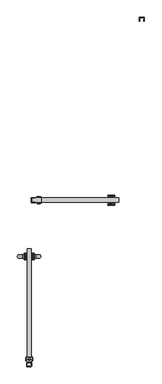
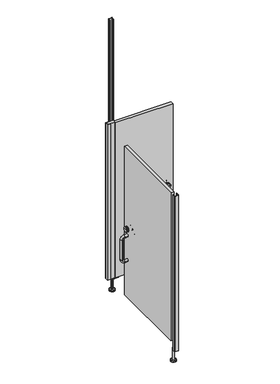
"""IFC4 building model written with IfcOpenShell, lengths in millimetres: proxy geometry, Partition_EuroStyle-Bradley_Corp-ADA_Alcove_1StandardStall-LOFT : Partition_EuroStyle-Bradley_Corp-ADA_Alcove_1StandardStall-LOFT."""

from ifc_helpers import new_model, si_unit, point, frame, frame_2d, origin, place, context, project, spatial, polyline, circle_curve, ellipse_curve, trimmed, segment, composite_curve, outline, extrude, source, transform, mapped, element, save
from ifc_brep_helpers import plane_surface, cylinder_surface, revolved_surface, advanced_brep


def specialty_equipment_3e80f648(model_context):
    return source(origin(), model_context, "Body", "SolidModel", [
        advanced_brep(
        [(1549.4, -2031.8, 975.0), (1549.4, -2001.8, 975.0), (1549.4, -2031.8, 679.0), (1549.4, -2001.8, 679.0), (1513.4, -2001.8, 975.0), (1513.4, -2031.8, 975.0), (1483.4, -2001.8, 945.0), (1483.4, -2001.8, 709.0), (1483.4, -2031.8, 709.0), (1483.4, -2031.8, 945.0), (1513.4, -2001.8, 679.0), (1513.4, -2031.8, 679.0)],
        [
            (0, 1, circle_curve(frame((1549.4, -2016.8, 975.0), z_axis=(1.0, 0.0, 0.0), x_axis=(0.0, 1.0, 0.0)), 15.0)),
            (1, 0, circle_curve(frame((1549.4, -2016.8, 975.0), z_axis=(1.0, 0.0, 0.0), x_axis=(0.0, 1.0, 0.0)), 15.0)),
            (2, 3, circle_curve(frame((1549.4, -2016.8, 679.0), z_axis=(1.0, 0.0, 0.0), x_axis=(0.0, 1.0, 0.0)), 15.0)),
            (3, 2, circle_curve(frame((1549.4, -2016.8, 679.0), z_axis=(1.0, 0.0, 0.0), x_axis=(0.0, 1.0, 0.0)), 15.0)),
            (1, 4),
            (4, 5, circle_curve(frame((1513.4, -2016.8, 975.0), z_axis=(1.0, 0.0, 0.0), x_axis=(0.0, 1.0, 0.0)), 15.0)),
            (5, 0),
            (5, 4, circle_curve(frame((1513.4, -2016.8, 975.0), z_axis=(1.0, 0.0, 0.0), x_axis=(0.0, 1.0, 0.0)), 15.0)),
            (6, 7),
            (7, 8, circle_curve(frame((1483.4, -2016.8, 709.0), z_axis=(0.0, 0.0, 1.0), x_axis=(0.0, 1.0, 0.0)), 15.0)),
            (8, 9),
            (9, 6, circle_curve(frame((1483.4, -2016.8, 945.0), z_axis=(0.0, 0.0, -1.0), x_axis=(0.0, 1.0, 0.0)), 15.0)),
            (8, 7, circle_curve(frame((1483.4, -2016.8, 709.0), z_axis=(0.0, 0.0, 1.0), x_axis=(0.0, 1.0, 0.0)), 15.0)),
            (6, 9, circle_curve(frame((1483.4, -2016.8, 945.0), z_axis=(0.0, 0.0, -1.0), x_axis=(0.0, 1.0, 0.0)), 15.0)),
            (10, 3),
            (2, 11),
            (11, 10, circle_curve(frame((1513.4, -2016.8, 679.0), z_axis=(1.0, 0.0, 0.0), x_axis=(0.0, 1.0, 0.0)), 15.0)),
            (10, 11, circle_curve(frame((1513.4, -2016.8, 679.0), z_axis=(1.0, 0.0, 0.0), x_axis=(0.0, 1.0, 0.0)), 15.0)),
            (9, 5, circle_curve(frame((1513.4, -2031.8, 945.0), z_axis=(0.0, 1.0, 0.0), x_axis=(0.0, 0.0, 1.0)), 30.0)),
            (4, 6, circle_curve(frame((1513.4, -2001.8, 945.0), z_axis=(0.0, -1.0, 0.0), x_axis=(0.0, 0.0, 1.0)), 30.0)),
            (11, 8, circle_curve(frame((1513.4, -2031.8, 709.0), z_axis=(0.0, 1.0, 0.0), x_axis=(-1.0, 0.0, 0.0)), 30.0)),
            (7, 10, circle_curve(frame((1513.4, -2001.8, 709.0), z_axis=(0.0, -1.0, 0.0), x_axis=(-1.0, 0.0, 0.0)), 30.0)),
        ],
        [
            plane_surface(frame((1549.4, -2016.8, 975.0), z_axis=(1.0, 0.0, 0.0), x_axis=(0.0, 1.0, 0.0))),
            plane_surface(frame((1549.4, -2016.8, 679.0), z_axis=(1.0, 0.0, 0.0), x_axis=(0.0, 1.0, 0.0))),
            cylinder_surface(frame((1549.4, -2016.8, 975.0), z_axis=(1.0, 0.0, 0.0), x_axis=(0.0, 1.0, 0.0)), 15.0),
            cylinder_surface(frame((1483.4, -2016.8, 945.0), z_axis=(0.0, 0.0, 1.0), x_axis=(0.0, 1.0, 0.0)), 15.0),
            cylinder_surface(frame((1513.4, -2016.8, 679.0), z_axis=(-1.0, 0.0, 0.0), x_axis=(0.0, 1.0, 0.0)), 15.0),
            revolved_surface(trimmed(ellipse_curve(frame((1513.4, -2016.8, 975.0), z_axis=(-1.0, 0.0, 0.0), x_axis=(0.0, 1.0, 0.0)), 15.0, 15.0), [point((1513.4, -2031.8, 975.0))], [point((1513.4, -2001.8, 975.0))], True, "CARTESIAN"), (1513.4, -2016.8, 945.0), (0.0, 1.0, 0.0)),
            revolved_surface(trimmed(ellipse_curve(frame((1513.4, -2016.8, 975.0), z_axis=(-1.0, 0.0, 0.0), x_axis=(0.0, 1.0, 0.0)), 15.0, 15.0), [point((1513.4, -2001.8, 975.0))], [point((1513.4, -2031.8, 975.0))], True, "CARTESIAN"), (1513.4, -2016.8, 945.0), (0.0, 1.0, 0.0)),
            revolved_surface(trimmed(ellipse_curve(frame((1483.4, -2016.8, 709.0), z_axis=(0.0, 0.0, -1.0), x_axis=(0.0, 1.0, 0.0)), 15.0, 15.0), [point((1483.4, -2031.8, 709.0))], [point((1483.4, -2001.8, 709.0))], True, "CARTESIAN"), (1513.4, -2016.8, 709.0), (0.0, 1.0, 0.0)),
            revolved_surface(trimmed(ellipse_curve(frame((1483.4, -2016.8, 709.0), z_axis=(0.0, 0.0, -1.0), x_axis=(0.0, 1.0, 0.0)), 15.0, 15.0), [point((1483.4, -2001.8, 709.0))], [point((1483.4, -2031.8, 709.0))], True, "CARTESIAN"), (1513.4, -2016.8, 709.0), (0.0, 1.0, 0.0)),
        ],
        [
            (0, [[1, 2]]),
            (1, [[3, 4]]),
            (2, [[5, 6, 7, -2]]),
            (2, [[-7, 8, -5, -1]]),
            (3, [[9, 10, 11, 12]]),
            (3, [[-11, 13, -9, 14]]),
            (4, [[15, -3, 16, 17]]),
            (4, [[-16, -4, -15, 18]]),
            (5, [[-12, 19, -6, 20]]),
            (6, [[-14, -20, -8, -19]]),
            (7, [[-17, 21, -10, 22]]),
            (8, [[-18, -22, -13, -21]]),
        ],
    ),
        advanced_brep(
        [(1585.4203251, -2031.8, 975.0), (1585.4203251, -2001.8, 975.0), (1585.4203251, -2031.8, 679.0), (1585.4203251, -2001.8, 679.0), (1621.4203251, -2031.8, 975.0), (1621.4203251, -2001.8, 975.0), (1651.4203251, -2001.8, 945.0), (1651.4203251, -2031.8, 945.0), (1651.4203251, -2031.8, 709.0), (1651.4203251, -2001.8, 709.0), (1621.4203251, -2001.8, 679.0), (1621.4203251, -2031.8, 679.0)],
        [
            (0, 1, circle_curve(frame((1585.4203251, -2016.8, 975.0), z_axis=(-1.0, 0.0, 0.0), x_axis=(0.0, 1.0, 0.0)), 15.0)),
            (1, 0, circle_curve(frame((1585.4203251, -2016.8, 975.0), z_axis=(-1.0, 0.0, 0.0), x_axis=(0.0, 1.0, 0.0)), 15.0)),
            (2, 3, circle_curve(frame((1585.4203251, -2016.8, 679.0), z_axis=(-1.0, 0.0, 0.0), x_axis=(0.0, 1.0, 0.0)), 15.0)),
            (3, 2, circle_curve(frame((1585.4203251, -2016.8, 679.0), z_axis=(-1.0, 0.0, 0.0), x_axis=(0.0, 1.0, 0.0)), 15.0)),
            (0, 4),
            (4, 5, circle_curve(frame((1621.4203251, -2016.8, 975.0), z_axis=(-1.0, 0.0, 0.0), x_axis=(0.0, 1.0, 0.0)), 15.0)),
            (5, 1),
            (5, 4, circle_curve(frame((1621.4203251, -2016.8, 975.0), z_axis=(-1.0, 0.0, 0.0), x_axis=(0.0, 1.0, 0.0)), 15.0)),
            (6, 7, circle_curve(frame((1651.4203251, -2016.8, 945.0), z_axis=(0.0, 0.0, -1.0), x_axis=(0.0, 1.0, 0.0)), 15.0)),
            (7, 8),
            (8, 9, circle_curve(frame((1651.4203251, -2016.8, 709.0), z_axis=(0.0, 0.0, 1.0), x_axis=(0.0, 1.0, 0.0)), 15.0)),
            (9, 6),
            (7, 6, circle_curve(frame((1651.4203251, -2016.8, 945.0), z_axis=(0.0, 0.0, -1.0), x_axis=(0.0, 1.0, 0.0)), 15.0)),
            (9, 8, circle_curve(frame((1651.4203251, -2016.8, 709.0), z_axis=(0.0, 0.0, 1.0), x_axis=(0.0, 1.0, 0.0)), 15.0)),
            (10, 11, circle_curve(frame((1621.4203251, -2016.8, 679.0), z_axis=(-1.0, 0.0, 0.0), x_axis=(0.0, 1.0, 0.0)), 15.0)),
            (11, 2),
            (3, 10),
            (11, 10, circle_curve(frame((1621.4203251, -2016.8, 679.0), z_axis=(-1.0, 0.0, 0.0), x_axis=(0.0, 1.0, 0.0)), 15.0)),
            (6, 5, circle_curve(frame((1621.4203251, -2001.8, 945.0), z_axis=(0.0, -1.0, 0.0), x_axis=(0.0, 0.0, 1.0)), 30.0)),
            (4, 7, circle_curve(frame((1621.4203251, -2031.8, 945.0), z_axis=(0.0, 1.0, 0.0), x_axis=(0.0, 0.0, 1.0)), 30.0)),
            (10, 9, circle_curve(frame((1621.4203251, -2001.8, 709.0), z_axis=(0.0, -1.0, 0.0), x_axis=(1.0, 0.0, 0.0)), 30.0)),
            (8, 11, circle_curve(frame((1621.4203251, -2031.8, 709.0), z_axis=(0.0, 1.0, 0.0), x_axis=(1.0, 0.0, 0.0)), 30.0)),
        ],
        [
            plane_surface(frame((1585.4203251, -2016.8, 975.0), z_axis=(-1.0, 0.0, 0.0), x_axis=(0.0, 1.0, 0.0))),
            plane_surface(frame((1585.4203251, -2016.8, 679.0), z_axis=(-1.0, 0.0, 0.0), x_axis=(0.0, 1.0, 0.0))),
            cylinder_surface(frame((1585.4203251, -2016.8, 975.0), z_axis=(-1.0, 0.0, 0.0), x_axis=(0.0, 1.0, 0.0)), 15.0),
            cylinder_surface(frame((1651.4203251, -2016.8, 945.0), z_axis=(0.0, 0.0, 1.0), x_axis=(0.0, 1.0, 0.0)), 15.0),
            cylinder_surface(frame((1621.4203251, -2016.8, 679.0), z_axis=(1.0, 0.0, 0.0), x_axis=(0.0, 1.0, 0.0)), 15.0),
            revolved_surface(trimmed(ellipse_curve(frame((1621.4203251, -2016.8, 975.0), z_axis=(-1.0, 0.0, 0.0), x_axis=(0.0, 1.0, 0.0)), 15.0, 15.0), [point((1621.4203251, -2031.8, 975.0))], [point((1621.4203251, -2001.8, 975.0))], True, "CARTESIAN"), (1621.4203251, -2016.8, 945.0), (0.0, 1.0, 0.0)),
            revolved_surface(trimmed(ellipse_curve(frame((1621.4203251, -2016.8, 975.0), z_axis=(-1.0, 0.0, 0.0), x_axis=(0.0, 1.0, 0.0)), 15.0, 15.0), [point((1621.4203251, -2001.8, 975.0))], [point((1621.4203251, -2031.8, 975.0))], True, "CARTESIAN"), (1621.4203251, -2016.8, 945.0), (0.0, 1.0, 0.0)),
            revolved_surface(trimmed(ellipse_curve(frame((1651.4203251, -2016.8, 709.0), z_axis=(0.0, 0.0, 1.0), x_axis=(0.0, 1.0, 0.0)), 15.0, 15.0), [point((1651.4203251, -2031.8, 709.0))], [point((1651.4203251, -2001.8, 709.0))], True, "CARTESIAN"), (1621.4203251, -2016.8, 709.0), (0.0, 1.0, 0.0)),
            revolved_surface(trimmed(ellipse_curve(frame((1651.4203251, -2016.8, 709.0), z_axis=(0.0, 0.0, 1.0), x_axis=(0.0, 1.0, 0.0)), 15.0, 15.0), [point((1651.4203251, -2001.8, 709.0))], [point((1651.4203251, -2031.8, 709.0))], True, "CARTESIAN"), (1621.4203251, -2016.8, 709.0), (0.0, 1.0, 0.0)),
        ],
        [
            (0, [[1, 2]]),
            (1, [[3, 4]]),
            (2, [[-1, 5, 6, 7]]),
            (2, [[-2, -7, 8, -5]]),
            (3, [[9, 10, 11, 12]]),
            (3, [[13, -12, 14, -10]]),
            (4, [[15, 16, -4, 17]]),
            (4, [[18, -17, -3, -16]]),
            (5, [[19, -6, 20, -9]]),
            (6, [[-20, -8, -19, -13]]),
            (7, [[21, -11, 22, -15]]),
            (8, [[-22, -14, -21, -18]]),
        ],
    ),
        advanced_brep(
        [(1549.4203251, -2045.375, 1050.0), (1549.4203251, -1988.225, 1050.0), (1549.4203251, -2016.8, 1050.0), (1544.6578251, -2045.375, 1050.0), (1544.6578251, -1988.225, 1050.0), (1525.6078251, -2045.375, 1050.0), (1525.6078251, -1988.225, 1050.0), (1530.3703251, -1988.225, 1050.0), (1530.3703251, -2045.375, 1050.0), (1531.9578251, -1989.8125, 1050.0), (1531.9578251, -2043.7875, 1050.0), (1543.0703251, -1989.8125, 1050.0), (1543.0703251, -2043.7875, 1050.0), (1524.0203251, -2016.8, 1050.0)],
        [
            (0, 1, circle_curve(frame((1549.4203251, -2016.8, 1050.0), z_axis=(1.0, 0.0, 0.0), x_axis=(0.0, 1.0, 0.0)), 28.575)),
            (1, 2),
            (2, 0),
            (1, 0, circle_curve(frame((1549.4203251, -2016.8, 1050.0), z_axis=(1.0, 0.0, 0.0), x_axis=(0.0, 1.0, 0.0)), 28.575)),
            (3, 4, circle_curve(frame((1544.6578251, -2016.8, 1050.0), z_axis=(1.0, 0.0, 0.0), x_axis=(0.0, 1.0, 0.0)), 28.575)),
            (4, 1),
            (0, 3),
            (4, 3, circle_curve(frame((1544.6578251, -2016.8, 1050.0), z_axis=(1.0, 0.0, 0.0), x_axis=(0.0, 1.0, 0.0)), 28.575)),
            (5, 6, circle_curve(frame((1525.6078251, -2016.8, 1050.0), z_axis=(1.0, 0.0, 0.0), x_axis=(0.0, 1.0, 0.0)), 28.575)),
            (6, 7),
            (7, 8, circle_curve(frame((1530.3703251, -2016.8, 1050.0), z_axis=(-1.0, 0.0, 0.0), x_axis=(0.0, 1.0, 0.0)), 28.575)),
            (8, 5),
            (6, 5, circle_curve(frame((1525.6078251, -2016.8, 1050.0), z_axis=(1.0, 0.0, 0.0), x_axis=(0.0, 1.0, 0.0)), 28.575)),
            (8, 7, circle_curve(frame((1530.3703251, -2016.8, 1050.0), z_axis=(-1.0, 0.0, 0.0), x_axis=(0.0, 1.0, 0.0)), 28.575)),
            (7, 9, circle_curve(frame((1531.9578251, -1988.225, 1050.0), z_axis=(0.0, 0.0, 1.0), x_axis=(0.0, 1.0, 0.0)), 1.5875)),
            (9, 10, circle_curve(frame((1531.9578251, -2016.8, 1050.0), z_axis=(-1.0, 0.0, 0.0), x_axis=(0.0, 1.0, 0.0)), 26.9875)),
            (10, 8, circle_curve(frame((1531.9578251, -2045.375, 1050.0), z_axis=(0.0, 0.0, 1.0), x_axis=(0.0, -1.0, 0.0)), 1.5875)),
            (10, 9, circle_curve(frame((1531.9578251, -2016.8, 1050.0), z_axis=(-1.0, 0.0, 0.0), x_axis=(0.0, 1.0, 0.0)), 26.9875)),
            (9, 11),
            (11, 12, circle_curve(frame((1543.0703251, -2016.8, 1050.0), z_axis=(-1.0, 0.0, 0.0), x_axis=(0.0, 1.0, 0.0)), 26.9875)),
            (12, 10),
            (12, 11, circle_curve(frame((1543.0703251, -2016.8, 1050.0), z_axis=(-1.0, 0.0, 0.0), x_axis=(0.0, 1.0, 0.0)), 26.9875)),
            (11, 4, circle_curve(frame((1543.0703251, -1988.225, 1050.0), z_axis=(0.0, 0.0, 1.0), x_axis=(0.0, 1.0, 0.0)), 1.5875)),
            (3, 12, circle_curve(frame((1543.0703251, -2045.375, 1050.0), z_axis=(0.0, 0.0, 1.0), x_axis=(0.0, -1.0, 0.0)), 1.5875)),
            (13, 6, circle_curve(frame((1715.4948544, -2013.1058766, 1050.0), z_axis=(0.0, 0.0, -1.0), x_axis=(0.0, 1.0, 0.0)), 191.5101613)),
            (5, 13, circle_curve(frame((1715.4948544, -2020.4941234, 1050.0), z_axis=(0.0, 0.0, -1.0), x_axis=(0.0, -1.0, 0.0)), 191.5101613)),
        ],
        [
            plane_surface(frame((1549.4203251, -2016.8, 1050.0), z_axis=(1.0, 0.0, 0.0), x_axis=(0.0, 1.0, 0.0))),
            cylinder_surface(frame((1549.4203251, -2016.8, 1050.0), z_axis=(-1.0, 0.0, 0.0), x_axis=(0.0, 1.0, 0.0)), 28.575),
            revolved_surface(trimmed(ellipse_curve(frame((1531.9578251, -1988.225, 1050.0), z_axis=(0.0, 0.0, -1.0), x_axis=(0.0, 1.0, 0.0)), 1.5875, 1.5875), [point((1531.9578251, -1989.8125, 1050.0))], [point((1530.3703251, -1988.225, 1050.0))], True, "CARTESIAN"), (1549.4203251, -2016.8, 1050.0), (-1.0, 0.0, 0.0)),
            cylinder_surface(frame((1549.4203251, -2016.8, 1050.0), z_axis=(-1.0, 0.0, 0.0), x_axis=(0.0, 1.0, 0.0)), 26.9875),
            revolved_surface(trimmed(ellipse_curve(frame((1543.0703251, -1988.225, 1050.0), z_axis=(0.0, 0.0, -1.0), x_axis=(0.0, 1.0, 0.0)), 1.5875, 1.5875), [point((1544.6578251, -1988.225, 1050.0))], [point((1543.0703251, -1989.8125, 1050.0))], True, "CARTESIAN"), (1549.4203251, -2016.8, 1050.0), (-1.0, 0.0, 0.0)),
            revolved_surface(trimmed(ellipse_curve(frame((1715.4948544, -2013.1058766, 1050.0), z_axis=(0.0, 0.0, 1.0), x_axis=(0.0, 1.0, 0.0)), 191.5101613, 191.5101613), [point((1525.6078251, -1988.225, 1050.0))], [point((1524.0203251, -2016.8, 1050.0))], True, "CARTESIAN"), (1549.4203251, -2016.8, 1050.0), (-1.0, 0.0, 0.0)),
        ],
        [
            (0, [[1, 2, 3]]),
            (0, [[4, -3, -2]]),
            (1, [[5, 6, -1, 7]]),
            (1, [[8, -7, -4, -6]]),
            (1, [[9, 10, 11, 12]]),
            (1, [[13, -12, 14, -10]]),
            (2, [[-11, 15, 16, 17]]),
            (2, [[-14, -17, 18, -15]]),
            (3, [[-16, 19, 20, 21]]),
            (3, [[-18, -21, 22, -19]]),
            (4, [[-20, 23, -5, 24]]),
            (4, [[-22, -24, -8, -23]]),
            (5, [[25, -9, 26]]),
            (5, [[-26, -13, -25]]),
        ],
    ),
        advanced_brep(
        [(1585.4203251, -2016.8, 1050.0), (1585.4203251, -1988.225, 1050.0), (1585.4203251, -2045.375, 1050.0), (1590.1828251, -1988.225, 1050.0), (1590.1828251, -2045.375, 1050.0), (1604.4703251, -2045.375, 1050.0), (1604.4703251, -1988.225, 1050.0), (1609.2328251, -1988.225, 1050.0), (1609.2328251, -2045.375, 1050.0), (1602.8828251, -2043.7875, 1050.0), (1602.8828251, -1989.8125, 1050.0), (1591.7703251, -2043.7875, 1050.0), (1591.7703251, -1989.8125, 1050.0), (1610.8203251, -2016.8, 1050.0)],
        [
            (0, 1),
            (1, 2, circle_curve(frame((1585.4203251, -2016.8, 1050.0), z_axis=(-1.0, 0.0, 0.0), x_axis=(0.0, 1.0, 0.0)), 28.575)),
            (2, 0),
            (2, 1, circle_curve(frame((1585.4203251, -2016.8, 1050.0), z_axis=(-1.0, 0.0, 0.0), x_axis=(0.0, 1.0, 0.0)), 28.575)),
            (1, 3),
            (3, 4, circle_curve(frame((1590.1828251, -2016.8, 1050.0), z_axis=(-1.0, 0.0, 0.0), x_axis=(0.0, 1.0, 0.0)), 28.575)),
            (4, 2),
            (4, 3, circle_curve(frame((1590.1828251, -2016.8, 1050.0), z_axis=(-1.0, 0.0, 0.0), x_axis=(0.0, 1.0, 0.0)), 28.575)),
            (5, 6, circle_curve(frame((1604.4703251, -2016.8, 1050.0), z_axis=(1.0, 0.0, 0.0), x_axis=(0.0, 1.0, 0.0)), 28.575)),
            (6, 7),
            (7, 8, circle_curve(frame((1609.2328251, -2016.8, 1050.0), z_axis=(-1.0, 0.0, 0.0), x_axis=(0.0, 1.0, 0.0)), 28.575)),
            (8, 5),
            (6, 5, circle_curve(frame((1604.4703251, -2016.8, 1050.0), z_axis=(1.0, 0.0, 0.0), x_axis=(0.0, 1.0, 0.0)), 28.575)),
            (8, 7, circle_curve(frame((1609.2328251, -2016.8, 1050.0), z_axis=(-1.0, 0.0, 0.0), x_axis=(0.0, 1.0, 0.0)), 28.575)),
            (9, 10, circle_curve(frame((1602.8828251, -2016.8, 1050.0), z_axis=(1.0, 0.0, 0.0), x_axis=(0.0, 1.0, 0.0)), 26.9875)),
            (10, 6, circle_curve(frame((1602.8828251, -1988.225, 1050.0), z_axis=(0.0, 0.0, 1.0), x_axis=(0.0, 1.0, 0.0)), 1.5875)),
            (5, 9, circle_curve(frame((1602.8828251, -2045.375, 1050.0), z_axis=(0.0, 0.0, 1.0), x_axis=(0.0, -1.0, 0.0)), 1.5875)),
            (10, 9, circle_curve(frame((1602.8828251, -2016.8, 1050.0), z_axis=(1.0, 0.0, 0.0), x_axis=(0.0, 1.0, 0.0)), 26.9875)),
            (11, 12, circle_curve(frame((1591.7703251, -2016.8, 1050.0), z_axis=(1.0, 0.0, 0.0), x_axis=(0.0, 1.0, 0.0)), 26.9875)),
            (12, 10),
            (9, 11),
            (12, 11, circle_curve(frame((1591.7703251, -2016.8, 1050.0), z_axis=(1.0, 0.0, 0.0), x_axis=(0.0, 1.0, 0.0)), 26.9875)),
            (3, 12, circle_curve(frame((1591.7703251, -1988.225, 1050.0), z_axis=(0.0, 0.0, 1.0), x_axis=(0.0, 1.0, 0.0)), 1.5875)),
            (11, 4, circle_curve(frame((1591.7703251, -2045.375, 1050.0), z_axis=(0.0, 0.0, 1.0), x_axis=(0.0, -1.0, 0.0)), 1.5875)),
            (7, 13, circle_curve(frame((1419.3457959, -2013.1058766, 1050.0), z_axis=(0.0, 0.0, -1.0), x_axis=(0.0, 1.0, 0.0)), 191.5101613)),
            (13, 8, circle_curve(frame((1419.3457959, -2020.4941234, 1050.0), z_axis=(0.0, 0.0, -1.0), x_axis=(0.0, -1.0, 0.0)), 191.5101613)),
        ],
        [
            plane_surface(frame((1585.4203251, -2016.8, 1050.0), z_axis=(-1.0, 0.0, 0.0), x_axis=(0.0, 1.0, 0.0))),
            cylinder_surface(frame((1585.4203251, -2016.8, 1050.0), z_axis=(-1.0, 0.0, 0.0), x_axis=(0.0, 1.0, 0.0)), 28.575),
            revolved_surface(trimmed(ellipse_curve(frame((1602.8828251, -1988.225, 1050.0), z_axis=(0.0, 0.0, -1.0), x_axis=(0.0, 1.0, 0.0)), 1.5875, 1.5875), [point((1604.4703251, -1988.225, 1050.0))], [point((1602.8828251, -1989.8125, 1050.0))], True, "CARTESIAN"), (1585.4203251, -2016.8, 1050.0), (-1.0, 0.0, 0.0)),
            cylinder_surface(frame((1585.4203251, -2016.8, 1050.0), z_axis=(-1.0, 0.0, 0.0), x_axis=(0.0, 1.0, 0.0)), 26.9875),
            revolved_surface(trimmed(ellipse_curve(frame((1591.7703251, -1988.225, 1050.0), z_axis=(0.0, 0.0, -1.0), x_axis=(0.0, 1.0, 0.0)), 1.5875, 1.5875), [point((1591.7703251, -1989.8125, 1050.0))], [point((1590.1828251, -1988.225, 1050.0))], True, "CARTESIAN"), (1585.4203251, -2016.8, 1050.0), (-1.0, 0.0, 0.0)),
            revolved_surface(trimmed(ellipse_curve(frame((1419.3457959, -2013.1058766, 1050.0), z_axis=(0.0, 0.0, 1.0), x_axis=(0.0, 1.0, 0.0)), 191.5101613, 191.5101613), [point((1610.8203251, -2016.8, 1050.0))], [point((1609.2328251, -1988.225, 1050.0))], True, "CARTESIAN"), (1585.4203251, -2016.8, 1050.0), (-1.0, 0.0, 0.0)),
        ],
        [
            (0, [[1, 2, 3]]),
            (0, [[-3, 4, -1]]),
            (1, [[-2, 5, 6, 7]]),
            (1, [[-4, -7, 8, -5]]),
            (1, [[9, 10, 11, 12]]),
            (1, [[13, -12, 14, -10]]),
            (2, [[15, 16, -9, 17]]),
            (2, [[18, -17, -13, -16]]),
            (3, [[19, 20, -15, 21]]),
            (3, [[22, -21, -18, -20]]),
            (4, [[-6, 23, -19, 24]]),
            (4, [[-8, -24, -22, -23]]),
            (5, [[-11, 25, 26]]),
            (5, [[-14, -26, -25]]),
        ],
    ),
        extrude(outline(polyline([(1549.4, -2862.4032348), (1549.4, -1953.3), (1585.4203251, -1953.3), (1585.4203251, -2862.4032348), (1549.4, -2862.4032348)])), frame((0.0, 0.0, 228.6), z_axis=(0.0, 0.0, 1.0), x_axis=(1.0, 0.0, 0.0)), (0.0, 0.0, 1.0), 1767.4),
        advanced_brep(
        [(2232.4451766, -1524.0098174, 1050.0), (2289.5951766, -1524.0098174, 1050.0), (2261.0201766, -1524.0098174, 1050.0), (2232.4451766, -1519.2473174, 1050.0), (2289.5951766, -1519.2473174, 1050.0), (2232.4451766, -1500.1973174, 1050.0), (2289.5951766, -1500.1973174, 1050.0), (2289.5951766, -1504.9598174, 1050.0), (2232.4451766, -1504.9598174, 1050.0), (2288.0076766, -1506.5473174, 1050.0), (2234.0326766, -1506.5473174, 1050.0), (2288.0076766, -1517.6598174, 1050.0), (2234.0326766, -1517.6598174, 1050.0), (2261.0201766, -1498.6098174, 1050.0)],
        [
            (0, 1, circle_curve(frame((2261.0201766, -1524.0098174, 1050.0), z_axis=(0.0, -1.0, 0.0), x_axis=(1.0, 0.0, 0.0)), 28.575)),
            (1, 2),
            (2, 0),
            (1, 0, circle_curve(frame((2261.0201766, -1524.0098174, 1050.0), z_axis=(0.0, -1.0, 0.0), x_axis=(1.0, 0.0, 0.0)), 28.575)),
            (3, 4, circle_curve(frame((2261.0201766, -1519.2473174, 1050.0), z_axis=(0.0, -1.0, 0.0), x_axis=(1.0, 0.0, 0.0)), 28.575)),
            (4, 1),
            (0, 3),
            (4, 3, circle_curve(frame((2261.0201766, -1519.2473174, 1050.0), z_axis=(0.0, -1.0, 0.0), x_axis=(1.0, 0.0, 0.0)), 28.575)),
            (5, 6, circle_curve(frame((2261.0201766, -1500.1973174, 1050.0), z_axis=(0.0, -1.0, 0.0), x_axis=(1.0, 0.0, 0.0)), 28.575)),
            (6, 7),
            (7, 8, circle_curve(frame((2261.0201766, -1504.9598174, 1050.0), z_axis=(0.0, 1.0, 0.0), x_axis=(1.0, 0.0, 0.0)), 28.575)),
            (8, 5),
            (6, 5, circle_curve(frame((2261.0201766, -1500.1973174, 1050.0), z_axis=(0.0, -1.0, 0.0), x_axis=(1.0, 0.0, 0.0)), 28.575)),
            (8, 7, circle_curve(frame((2261.0201766, -1504.9598174, 1050.0), z_axis=(0.0, 1.0, 0.0), x_axis=(1.0, 0.0, 0.0)), 28.575)),
            (7, 9, circle_curve(frame((2289.5951766, -1506.5473174, 1050.0), z_axis=(0.0, 0.0, 1.0), x_axis=(1.0, 0.0, 0.0)), 1.5875)),
            (9, 10, circle_curve(frame((2261.0201766, -1506.5473174, 1050.0), z_axis=(0.0, 1.0, 0.0), x_axis=(1.0, 0.0, 0.0)), 26.9875)),
            (10, 8, circle_curve(frame((2232.4451766, -1506.5473174, 1050.0), z_axis=(0.0, 0.0, 1.0), x_axis=(-1.0, 0.0, 0.0)), 1.5875)),
            (10, 9, circle_curve(frame((2261.0201766, -1506.5473174, 1050.0), z_axis=(0.0, 1.0, 0.0), x_axis=(1.0, 0.0, 0.0)), 26.9875)),
            (9, 11),
            (11, 12, circle_curve(frame((2261.0201766, -1517.6598174, 1050.0), z_axis=(0.0, 1.0, 0.0), x_axis=(1.0, 0.0, 0.0)), 26.9875)),
            (12, 10),
            (12, 11, circle_curve(frame((2261.0201766, -1517.6598174, 1050.0), z_axis=(0.0, 1.0, 0.0), x_axis=(1.0, 0.0, 0.0)), 26.9875)),
            (11, 4, circle_curve(frame((2289.5951766, -1517.6598174, 1050.0), z_axis=(0.0, 0.0, 1.0), x_axis=(1.0, 0.0, 0.0)), 1.5875)),
            (3, 12, circle_curve(frame((2232.4451766, -1517.6598174, 1050.0), z_axis=(0.0, 0.0, 1.0), x_axis=(-1.0, 0.0, 0.0)), 1.5875)),
            (13, 6, circle_curve(frame((2264.7143, -1690.0843466, 1050.0), z_axis=(0.0, 0.0, -1.0), x_axis=(1.0, 0.0, 0.0)), 191.5101613)),
            (5, 13, circle_curve(frame((2257.3260533, -1690.0843466, 1050.0), z_axis=(0.0, 0.0, -1.0), x_axis=(-1.0, 0.0, 0.0)), 191.5101613)),
        ],
        [
            plane_surface(frame((2261.0201766, -1524.0098174, 1050.0), z_axis=(0.0, -1.0, 0.0), x_axis=(1.0, 0.0, 0.0))),
            cylinder_surface(frame((2261.0201766, -1524.0098174, 1050.0), z_axis=(0.0, 1.0, 0.0), x_axis=(1.0, 0.0, 0.0)), 28.575),
            revolved_surface(trimmed(ellipse_curve(frame((2289.5951766, -1506.5473174, 1050.0), z_axis=(0.0, 0.0, -1.0), x_axis=(1.0, 0.0, 0.0)), 1.5875, 1.5875), [point((2288.0076766, -1506.5473174, 1050.0))], [point((2289.5951766, -1504.9598174, 1050.0))], True, "CARTESIAN"), (2261.0201766, -1524.0098174, 1050.0), (0.0, 1.0, 0.0)),
            cylinder_surface(frame((2261.0201766, -1524.0098174, 1050.0), z_axis=(0.0, 1.0, 0.0), x_axis=(1.0, 0.0, 0.0)), 26.9875),
            revolved_surface(trimmed(ellipse_curve(frame((2289.5951766, -1517.6598174, 1050.0), z_axis=(0.0, 0.0, -1.0), x_axis=(1.0, 0.0, 0.0)), 1.5875, 1.5875), [point((2289.5951766, -1519.2473174, 1050.0))], [point((2288.0076766, -1517.6598174, 1050.0))], True, "CARTESIAN"), (2261.0201766, -1524.0098174, 1050.0), (0.0, 1.0, 0.0)),
            revolved_surface(trimmed(ellipse_curve(frame((2264.7143, -1690.0843466, 1050.0), z_axis=(0.0, 0.0, 1.0), x_axis=(1.0, 0.0, 0.0)), 191.5101613, 191.5101613), [point((2289.5951766, -1500.1973174, 1050.0))], [point((2261.0201766, -1498.6098174, 1050.0))], True, "CARTESIAN"), (2261.0201766, -1524.0098174, 1050.0), (0.0, 1.0, 0.0)),
        ],
        [
            (0, [[1, 2, 3]]),
            (0, [[4, -3, -2]]),
            (1, [[5, 6, -1, 7]]),
            (1, [[8, -7, -4, -6]]),
            (1, [[9, 10, 11, 12]]),
            (1, [[13, -12, 14, -10]]),
            (2, [[-11, 15, 16, 17]]),
            (2, [[-14, -17, 18, -15]]),
            (3, [[-16, 19, 20, 21]]),
            (3, [[-18, -21, 22, -19]]),
            (4, [[-20, 23, -5, 24]]),
            (4, [[-22, -24, -8, -23]]),
            (5, [[25, -9, 26]]),
            (5, [[-26, -13, -25]]),
        ],
    ),
        advanced_brep(
        [(2261.0201766, -1560.0098174, 1050.0), (2289.5951766, -1560.0098174, 1050.0), (2232.4451766, -1560.0098174, 1050.0), (2289.5951766, -1564.7723174, 1050.0), (2232.4451766, -1564.7723174, 1050.0), (2232.4451766, -1579.0598174, 1050.0), (2289.5951766, -1579.0598174, 1050.0), (2289.5951766, -1583.8223174, 1050.0), (2232.4451766, -1583.8223174, 1050.0), (2234.0326766, -1577.4723174, 1050.0), (2288.0076766, -1577.4723174, 1050.0), (2234.0326766, -1566.3598174, 1050.0), (2288.0076766, -1566.3598174, 1050.0), (2261.0201766, -1585.4098174, 1050.0)],
        [
            (0, 1),
            (1, 2, circle_curve(frame((2261.0201766, -1560.0098174, 1050.0), z_axis=(0.0, 1.0, 0.0), x_axis=(1.0, 0.0, 0.0)), 28.575)),
            (2, 0),
            (2, 1, circle_curve(frame((2261.0201766, -1560.0098174, 1050.0), z_axis=(0.0, 1.0, 0.0), x_axis=(1.0, 0.0, 0.0)), 28.575)),
            (1, 3),
            (3, 4, circle_curve(frame((2261.0201766, -1564.7723174, 1050.0), z_axis=(0.0, 1.0, 0.0), x_axis=(1.0, 0.0, 0.0)), 28.575)),
            (4, 2),
            (4, 3, circle_curve(frame((2261.0201766, -1564.7723174, 1050.0), z_axis=(0.0, 1.0, 0.0), x_axis=(1.0, 0.0, 0.0)), 28.575)),
            (5, 6, circle_curve(frame((2261.0201766, -1579.0598174, 1050.0), z_axis=(0.0, -1.0, 0.0), x_axis=(1.0, 0.0, 0.0)), 28.575)),
            (6, 7),
            (7, 8, circle_curve(frame((2261.0201766, -1583.8223174, 1050.0), z_axis=(0.0, 1.0, 0.0), x_axis=(1.0, 0.0, 0.0)), 28.575)),
            (8, 5),
            (6, 5, circle_curve(frame((2261.0201766, -1579.0598174, 1050.0), z_axis=(0.0, -1.0, 0.0), x_axis=(1.0, 0.0, 0.0)), 28.575)),
            (8, 7, circle_curve(frame((2261.0201766, -1583.8223174, 1050.0), z_axis=(0.0, 1.0, 0.0), x_axis=(1.0, 0.0, 0.0)), 28.575)),
            (9, 10, circle_curve(frame((2261.0201766, -1577.4723174, 1050.0), z_axis=(0.0, -1.0, 0.0), x_axis=(1.0, 0.0, 0.0)), 26.9875)),
            (10, 6, circle_curve(frame((2289.5951766, -1577.4723174, 1050.0), z_axis=(0.0, 0.0, 1.0), x_axis=(1.0, 0.0, 0.0)), 1.5875)),
            (5, 9, circle_curve(frame((2232.4451766, -1577.4723174, 1050.0), z_axis=(0.0, 0.0, 1.0), x_axis=(-1.0, 0.0, 0.0)), 1.5875)),
            (10, 9, circle_curve(frame((2261.0201766, -1577.4723174, 1050.0), z_axis=(0.0, -1.0, 0.0), x_axis=(1.0, 0.0, 0.0)), 26.9875)),
            (11, 12, circle_curve(frame((2261.0201766, -1566.3598174, 1050.0), z_axis=(0.0, -1.0, 0.0), x_axis=(1.0, 0.0, 0.0)), 26.9875)),
            (12, 10),
            (9, 11),
            (12, 11, circle_curve(frame((2261.0201766, -1566.3598174, 1050.0), z_axis=(0.0, -1.0, 0.0), x_axis=(1.0, 0.0, 0.0)), 26.9875)),
            (3, 12, circle_curve(frame((2289.5951766, -1566.3598174, 1050.0), z_axis=(0.0, 0.0, 1.0), x_axis=(1.0, 0.0, 0.0)), 1.5875)),
            (11, 4, circle_curve(frame((2232.4451766, -1566.3598174, 1050.0), z_axis=(0.0, 0.0, 1.0), x_axis=(-1.0, 0.0, 0.0)), 1.5875)),
            (7, 13, circle_curve(frame((2264.7143, -1393.9352882, 1050.0), z_axis=(0.0, 0.0, -1.0), x_axis=(1.0, 0.0, 0.0)), 191.5101613)),
            (13, 8, circle_curve(frame((2257.3260533, -1393.9352882, 1050.0), z_axis=(0.0, 0.0, -1.0), x_axis=(-1.0, 0.0, 0.0)), 191.5101613)),
        ],
        [
            plane_surface(frame((2261.0201766, -1560.0098174, 1050.0), z_axis=(0.0, 1.0, 0.0), x_axis=(1.0, 0.0, 0.0))),
            cylinder_surface(frame((2261.0201766, -1560.0098174, 1050.0), z_axis=(0.0, 1.0, 0.0), x_axis=(1.0, 0.0, 0.0)), 28.575),
            revolved_surface(trimmed(ellipse_curve(frame((2289.5951766, -1577.4723174, 1050.0), z_axis=(0.0, 0.0, -1.0), x_axis=(1.0, 0.0, 0.0)), 1.5875, 1.5875), [point((2289.5951766, -1579.0598174, 1050.0))], [point((2288.0076766, -1577.4723174, 1050.0))], True, "CARTESIAN"), (2261.0201766, -1560.0098174, 1050.0), (0.0, 1.0, 0.0)),
            cylinder_surface(frame((2261.0201766, -1560.0098174, 1050.0), z_axis=(0.0, 1.0, 0.0), x_axis=(1.0, 0.0, 0.0)), 26.9875),
            revolved_surface(trimmed(ellipse_curve(frame((2289.5951766, -1566.3598174, 1050.0), z_axis=(0.0, 0.0, -1.0), x_axis=(1.0, 0.0, 0.0)), 1.5875, 1.5875), [point((2288.0076766, -1566.3598174, 1050.0))], [point((2289.5951766, -1564.7723174, 1050.0))], True, "CARTESIAN"), (2261.0201766, -1560.0098174, 1050.0), (0.0, 1.0, 0.0)),
            revolved_surface(trimmed(ellipse_curve(frame((2264.7143, -1393.9352882, 1050.0), z_axis=(0.0, 0.0, 1.0), x_axis=(1.0, 0.0, 0.0)), 191.5101613, 191.5101613), [point((2261.0201766, -1585.4098174, 1050.0))], [point((2289.5951766, -1583.8223174, 1050.0))], True, "CARTESIAN"), (2261.0201766, -1560.0098174, 1050.0), (0.0, 1.0, 0.0)),
        ],
        [
            (0, [[1, 2, 3]]),
            (0, [[-3, 4, -1]]),
            (1, [[-2, 5, 6, 7]]),
            (1, [[-4, -7, 8, -5]]),
            (1, [[9, 10, 11, 12]]),
            (1, [[13, -12, 14, -10]]),
            (2, [[15, 16, -9, 17]]),
            (2, [[18, -17, -13, -16]]),
            (3, [[19, 20, -15, 21]]),
            (3, [[22, -21, -18, -20]]),
            (4, [[-6, 23, -19, 24]]),
            (4, [[-8, -24, -22, -23]]),
            (5, [[-11, 25, 26]]),
            (5, [[-14, -26, -25]]),
        ],
    ),
        extrude(outline(polyline([(1669.4170903, -1523.9894923), (2324.5201766, -1523.9894923), (2324.5201766, -1560.0098174), (1669.4170903, -1560.0098174), (1669.4170903, -1523.9894923)])), frame((0.0, 0.0, 150.1179687), z_axis=(0.0, 0.0, 1.0), x_axis=(1.0, 0.0, 0.0)), (0.0, 0.0, 1.0), 1845.8820313),
        extrude(outline(composite_curve([segment(polyline([(2497.3288796, -32.5000002), (2496.8205405, -2.02918)]), True, "CONTINUOUS"), segment(trimmed(circle_curve(frame_2d((2498.8497205, -2.02918)), 2.02918), [point((2496.8205405, -2.02918))], [point((2498.8497205, 0.0))], False, "CARTESIAN"), True, "CONTINUOUS"), segment(polyline([(2498.8497205, 0.0), (2536.7909298, 0.0)]), True, "CONTINUOUS"), segment(trimmed(circle_curve(frame_2d((2536.7909298, -2.02918)), 2.02918), [point((2536.7909298, 0.0))], [point((2538.8201098, -2.02918))], False, "CARTESIAN"), True, "CONTINUOUS"), segment(polyline([(2538.8201098, -2.02918), (2538.3117707, -32.5000002), (2536.8131851, -32.5000002)]), True, "CONTINUOUS"), segment(trimmed(circle_curve(frame_2d((2536.8167525, -31.5009082)), 0.9990984), [point((2536.8131851, -32.5000002))], [point((2536.3430999, -30.6212202))], False, "CARTESIAN"), True, "CONTINUOUS"), segment(polyline([(2536.3430999, -30.6212202), (2536.4642099, -23.3575702)]), True, "CONTINUOUS"), segment(trimmed(circle_curve(frame_2d((2536.9817558, -22.5000551)), 1.0015917), [point((2536.4642099, -23.3575702))], [point((2536.4926587, -21.6260013))], False, "CARTESIAN"), True, "CONTINUOUS"), segment(polyline([(2536.4926587, -21.6260013), (2536.78671, -4.0)]), True, "CONTINUOUS"), segment(trimmed(circle_curve(frame_2d((2534.7870154, -3.9990939)), 1.9996948), [point((2536.78671, -4.0))], [point((2534.7379958, -2.0))], True, "CARTESIAN"), True, "CONTINUOUS"), segment(polyline([(2534.7379958, -2.0), (2500.8536968, -2.0)]), True, "CONTINUOUS"), segment(trimmed(circle_curve(frame_2d((2500.8536968, -4.0002204)), 2.0002204), [point((2500.8536968, -2.0))], [point((2498.8535049, -3.9895469))], True, "CARTESIAN"), True, "CONTINUOUS"), segment(polyline([(2498.8535049, -3.9895469), (2499.1475604, -21.6257602)]), True, "CONTINUOUS"), segment(trimmed(circle_curve(frame_2d((2498.6588945, -22.5000551)), 1.0015917), [point((2499.1475604, -21.6257602))], [point((2499.1764404, -23.3575702))], False, "CARTESIAN"), True, "CONTINUOUS"), segment(polyline([(2499.1764404, -23.3575702), (2499.2975504, -30.6212202)]), True, "CONTINUOUS"), segment(trimmed(circle_curve(frame_2d((2498.8238978, -31.5009082)), 0.9990984), [point((2499.2975504, -30.6212202))], [point((2498.8274652, -32.5000002))], False, "CARTESIAN"), True, "CONTINUOUS"), segment(polyline([(2498.8274652, -32.5000002), (2497.3288796, -32.5000002)]), True, "CONTINUOUS")], self_intersect=False)), frame((0.0, 0.0, 150.0), z_axis=(0.0, 0.0, 1.0), x_axis=(1.0, 0.0, 0.0)), (0.0, 0.0, 1.0), 1855.0),
        advanced_brep(
        [(1648.9184939, -1532.9996552, 150.0000008), (1648.9184939, -1550.9996545, 150.0000008), (1648.9184939, -1550.9996545, 12.0000001), (1648.9184939, -1532.9996552, 12.0000001), (1648.9184939, -1541.9996549, 150.0000008), (1648.9184939, -1510.9996559, 0.0), (1648.9184939, -1572.9996538, 0.0), (1648.9184939, -1541.9996549, 0.0), (1648.9184939, -1510.9996559, 10.0000001), (1648.9184939, -1572.9996538, 10.0000001), (1648.9184939, -1513.0020678, 12.0000001), (1648.9184939, -1570.9972419, 12.0000001)],
        [
            (0, 1, circle_curve(frame((1648.9184939, -1541.9996549, 150.0000008), z_axis=(0.0, 0.0, -1.0), x_axis=(0.0, -1.0, 0.0)), 8.9999997)),
            (1, 2),
            (2, 3, circle_curve(frame((1648.9184939, -1541.9996549, 12.0000001), z_axis=(0.0, 0.0, 1.0), x_axis=(0.0, -1.0, 0.0)), 8.9999997)),
            (3, 0),
            (1, 0, circle_curve(frame((1648.9184939, -1541.9996549, 150.0000008), z_axis=(0.0, 0.0, -1.0), x_axis=(0.0, -1.0, 0.0)), 8.9999997)),
            (3, 2, circle_curve(frame((1648.9184939, -1541.9996549, 12.0000001), z_axis=(0.0, 0.0, 1.0), x_axis=(0.0, -1.0, 0.0)), 8.9999997)),
            (4, 1),
            (0, 4),
            (5, 6, circle_curve(frame((1648.9184939, -1541.9996549, 0.0), z_axis=(0.0, 0.0, -1.0), x_axis=(0.0, -1.0, 0.0)), 30.9999989)),
            (6, 7),
            (7, 5),
            (6, 5, circle_curve(frame((1648.9184939, -1541.9996549, 0.0), z_axis=(0.0, 0.0, -1.0), x_axis=(0.0, -1.0, 0.0)), 30.9999989)),
            (8, 9, circle_curve(frame((1648.9184939, -1541.9996549, 10.0000001), z_axis=(0.0, 0.0, -1.0), x_axis=(0.0, -1.0, 0.0)), 30.9999989)),
            (9, 6),
            (5, 8),
            (9, 8, circle_curve(frame((1648.9184939, -1541.9996549, 10.0000001), z_axis=(0.0, 0.0, -1.0), x_axis=(0.0, -1.0, 0.0)), 30.9999989)),
            (10, 11, circle_curve(frame((1648.9184939, -1541.9996549, 12.0000001), z_axis=(0.0, 0.0, -1.0), x_axis=(0.0, -1.0, 0.0)), 28.997587)),
            (11, 9),
            (8, 10),
            (11, 10, circle_curve(frame((1648.9184939, -1541.9996549, 12.0000001), z_axis=(0.0, 0.0, -1.0), x_axis=(0.0, -1.0, 0.0)), 28.997587)),
            (2, 11),
            (10, 3),
        ],
        [
            cylinder_surface(frame((1648.9184939, -1541.9996549, 0.0), z_axis=(0.0, 0.0, 1.0), x_axis=(0.0, -1.0, 0.0)), 8.9999997),
            plane_surface(frame((1648.9184939, -1541.9996549, 150.0000008), z_axis=(0.0, 0.0, 1.0), x_axis=(0.0, -1.0, 0.0))),
            plane_surface(frame((1648.9184939, -1541.9996549, 0.0), z_axis=(0.0, 0.0, -1.0), x_axis=(0.0, -1.0, 0.0))),
            cylinder_surface(frame((1648.9184939, -1541.9996549, 0.0), z_axis=(0.0, 0.0, 1.0), x_axis=(0.0, -1.0, 0.0)), 30.9999989),
            revolved_surface(polyline([(1648.9184939, -1572.9996538, 10.0000001), (1648.9184939, -1570.9972419, 12.0000001)]), (1648.9184939, -1541.9996549, 0.0), (0.0, 0.0, 1.0)),
            plane_surface(frame((1648.9184939, -1541.9996549, 12.0000001), z_axis=(0.0, 0.0, 1.0), x_axis=(0.0, -1.0, 0.0))),
        ],
        [
            (0, [[1, 2, 3, 4]]),
            (0, [[5, -4, 6, -2]]),
            (1, [[7, -1, 8]]),
            (1, [[-8, -5, -7]]),
            (2, [[9, 10, 11]]),
            (2, [[12, -11, -10]]),
            (3, [[13, 14, -9, 15]]),
            (3, [[16, -15, -12, -14]]),
            (4, [[17, 18, -13, 19]]),
            (4, [[20, -19, -16, -18]]),
            (5, [[-3, 21, -17, 22]]),
            (5, [[-6, -22, -20, -21]]),
        ],
    ),
        extrude(outline(composite_curve([segment(polyline([(1617.9203254, -1521.5082093), (1617.9203254, -1523.0067949)]), True, "CONTINUOUS"), segment(trimmed(circle_curve(frame_2d((1616.9212333, -1523.0032275)), 0.9990984), [point((1617.9203254, -1523.0067949))], [point((1616.0415454, -1523.4768801))], False, "CARTESIAN"), True, "CONTINUOUS"), segment(polyline([(1616.0415454, -1523.4768801), (1608.7778953, -1523.3557701)]), True, "CONTINUOUS"), segment(trimmed(circle_curve(frame_2d((1607.9203802, -1522.8382242)), 1.0015917), [point((1608.7778953, -1523.3557701))], [point((1607.0460853, -1523.3268901))], False, "CARTESIAN"), True, "CONTINUOUS"), segment(polyline([(1607.0460853, -1523.3268901), (1589.4098721, -1523.0328346)]), True, "CONTINUOUS"), segment(trimmed(circle_curve(frame_2d((1589.4205455, -1525.0330265)), 2.0002204), [point((1589.4098721, -1523.0328346))], [point((1587.4203251, -1525.0330265))], True, "CARTESIAN"), True, "CONTINUOUS"), segment(polyline([(1587.4203251, -1525.0330265), (1587.4203252, -1558.9173255)]), True, "CONTINUOUS"), segment(trimmed(circle_curve(frame_2d((1589.4194191, -1558.9663451)), 1.9996948), [point((1587.4203252, -1558.9173255))], [point((1589.4203252, -1560.9660398))], True, "CARTESIAN"), True, "CONTINUOUS"), segment(polyline([(1589.4203252, -1560.9660398), (1607.0463264, -1560.6719884)]), True, "CONTINUOUS"), segment(trimmed(circle_curve(frame_2d((1607.9203802, -1561.1610855)), 1.0015917), [point((1607.0463264, -1560.6719884))], [point((1608.7778953, -1560.6435396))], False, "CARTESIAN"), True, "CONTINUOUS"), segment(polyline([(1608.7778953, -1560.6435396), (1616.0415454, -1560.5224296)]), True, "CONTINUOUS"), segment(trimmed(circle_curve(frame_2d((1616.9212333, -1560.9960822)), 0.9990984), [point((1616.0415454, -1560.5224296))], [point((1617.9203254, -1560.9925148))], False, "CARTESIAN"), True, "CONTINUOUS"), segment(polyline([(1617.9203254, -1560.9925148), (1617.9203254, -1562.4911004), (1587.4495052, -1562.9994395)]), True, "CONTINUOUS"), segment(trimmed(circle_curve(frame_2d((1587.4495052, -1560.9702595)), 2.02918), [point((1587.4495052, -1562.9994395))], [point((1585.4203251, -1560.9702595))], False, "CARTESIAN"), True, "CONTINUOUS"), segment(polyline([(1585.4203251, -1560.9702595), (1585.4203251, -1523.0290502)]), True, "CONTINUOUS"), segment(trimmed(circle_curve(frame_2d((1587.4495052, -1523.0290502)), 2.02918), [point((1585.4203251, -1523.0290502))], [point((1587.4495052, -1520.9998702))], False, "CARTESIAN"), True, "CONTINUOUS"), segment(polyline([(1587.4495052, -1520.9998702), (1617.9203254, -1521.5082093)]), True, "CONTINUOUS")], self_intersect=False)), frame((0.0, 0.0, 150.0), z_axis=(0.0, 0.0, 1.0), x_axis=(1.0, 0.0, 0.0)), (0.0, 0.0, 1.0), 1855.0),
        extrude(outline(polyline([(146.0000008, 1630.3184945), (138.0669895, 1630.3184945), (138.0669895, 1710.1657277), (146.0000008, 1710.0671655), (146.0000008, 1630.3184945)])), frame((0.0, -1559.4621549, 0.0), z_axis=(0.0, 1.0, 0.0), x_axis=(0.0, 0.0, 1.0)), (0.0, 0.0, 1.0), 34.925),
        advanced_brep(
        [(1657.9184936, -1541.9996549, 150.0000008), (1639.9184942, -1541.9996549, 150.0000008), (1639.9184942, -1541.9996549, 12.0000001), (1657.9184936, -1541.9996549, 12.0000001), (1648.9184939, -1541.9996549, 150.0000008), (1679.9184928, -1541.9996549, 0.0), (1617.9184949, -1541.9996549, 0.0), (1648.9184939, -1541.9996549, 0.0), (1679.9184928, -1541.9996549, 10.0000001), (1617.9184949, -1541.9996549, 10.0000001), (1677.9160809, -1541.9996549, 12.0000001), (1619.9209068, -1541.9996549, 12.0000001)],
        [
            (0, 1, circle_curve(frame((1648.9184939, -1541.9996549, 150.0000008), z_axis=(0.0, 0.0, -1.0), x_axis=(-1.0, 0.0, 0.0)), 8.9999997)),
            (1, 2),
            (2, 3, circle_curve(frame((1648.9184939, -1541.9996549, 12.0000001), z_axis=(0.0, 0.0, 1.0), x_axis=(-1.0, 0.0, 0.0)), 8.9999997)),
            (3, 0),
            (1, 0, circle_curve(frame((1648.9184939, -1541.9996549, 150.0000008), z_axis=(0.0, 0.0, -1.0), x_axis=(-1.0, 0.0, 0.0)), 8.9999997)),
            (3, 2, circle_curve(frame((1648.9184939, -1541.9996549, 12.0000001), z_axis=(0.0, 0.0, 1.0), x_axis=(-1.0, 0.0, 0.0)), 8.9999997)),
            (4, 1),
            (0, 4),
            (5, 6, circle_curve(frame((1648.9184939, -1541.9996549, 0.0), z_axis=(0.0, 0.0, -1.0), x_axis=(-1.0, 0.0, 0.0)), 30.9999989)),
            (6, 7),
            (7, 5),
            (6, 5, circle_curve(frame((1648.9184939, -1541.9996549, 0.0), z_axis=(0.0, 0.0, -1.0), x_axis=(-1.0, 0.0, 0.0)), 30.9999989)),
            (8, 9, circle_curve(frame((1648.9184939, -1541.9996549, 10.0000001), z_axis=(0.0, 0.0, -1.0), x_axis=(-1.0, 0.0, 0.0)), 30.9999989)),
            (9, 6),
            (5, 8),
            (9, 8, circle_curve(frame((1648.9184939, -1541.9996549, 10.0000001), z_axis=(0.0, 0.0, -1.0), x_axis=(-1.0, 0.0, 0.0)), 30.9999989)),
            (10, 11, circle_curve(frame((1648.9184939, -1541.9996549, 12.0000001), z_axis=(0.0, 0.0, -1.0), x_axis=(-1.0, 0.0, 0.0)), 28.997587)),
            (11, 9),
            (8, 10),
            (11, 10, circle_curve(frame((1648.9184939, -1541.9996549, 12.0000001), z_axis=(0.0, 0.0, -1.0), x_axis=(-1.0, 0.0, 0.0)), 28.997587)),
            (2, 11),
            (10, 3),
        ],
        [
            cylinder_surface(frame((1648.9184939, -1541.9996549, 0.0), z_axis=(0.0, 0.0, 1.0), x_axis=(-1.0, 0.0, 0.0)), 8.9999997),
            plane_surface(frame((1648.9184939, -1541.9996549, 150.0000008), z_axis=(0.0, 0.0, 1.0), x_axis=(-1.0, 0.0, 0.0))),
            plane_surface(frame((1648.9184939, -1541.9996549, 0.0), z_axis=(0.0, 0.0, -1.0), x_axis=(-1.0, 0.0, 0.0))),
            cylinder_surface(frame((1648.9184939, -1541.9996549, 0.0), z_axis=(0.0, 0.0, 1.0), x_axis=(-1.0, 0.0, 0.0)), 30.9999989),
            revolved_surface(polyline([(1617.9184949, -1541.9996549, 10.0000001), (1619.9209068, -1541.9996549, 12.0000001)]), (1648.9184939, -1541.9996549, 0.0), (0.0, 0.0, 1.0)),
            plane_surface(frame((1648.9184939, -1541.9996549, 12.0000001), z_axis=(0.0, 0.0, 1.0), x_axis=(-1.0, 0.0, 0.0))),
        ],
        [
            (0, [[1, 2, 3, 4]]),
            (0, [[5, -4, 6, -2]]),
            (1, [[7, -1, 8]]),
            (1, [[-8, -5, -7]]),
            (2, [[9, 10, 11]]),
            (2, [[12, -11, -10]]),
            (3, [[13, 14, -9, 15]]),
            (3, [[16, -15, -12, -14]]),
            (4, [[17, 18, -13, 19]]),
            (4, [[20, -19, -16, -18]]),
            (5, [[-3, 21, -17, 22]]),
            (5, [[-6, -22, -20, -21]]),
        ],
    ),
        extrude(outline(polyline([(1595.4202531, -1523.9894923), (1669.4170903, -1523.9894923), (1669.4170903, -1560.0098174), (1595.4202531, -1560.0098174), (1595.4202531, -1523.9894923)])), frame((0.0, 0.0, 150.0), z_axis=(0.0, 0.0, 1.0), x_axis=(1.0, 0.0, 0.0)), (0.0, 0.0, 1.0), 1855.0),
        advanced_brep(
        [(1558.4101629, -2882.9018313, 150.0000008), (1576.4101623, -2882.9018313, 150.0000008), (1576.4101623, -2882.9018313, 12.0000001), (1558.4101629, -2882.9018313, 12.0000001), (1567.4101626, -2882.9018313, 150.0000008), (1536.4101636, -2882.9018313, 0.0), (1598.4101615, -2882.9018313, 0.0), (1567.4101626, -2882.9018313, 0.0), (1536.4101636, -2882.9018313, 10.0000001), (1598.4101615, -2882.9018313, 10.0000001), (1538.4125756, -2882.9018313, 12.0000001), (1596.4077496, -2882.9018313, 12.0000001)],
        [
            (0, 1, circle_curve(frame((1567.4101626, -2882.9018313, 150.0000008), z_axis=(0.0, 0.0, -1.0), x_axis=(1.0, 0.0, 0.0)), 8.9999997)),
            (1, 2),
            (2, 3, circle_curve(frame((1567.4101626, -2882.9018313, 12.0000001), z_axis=(0.0, 0.0, 1.0), x_axis=(1.0, 0.0, 0.0)), 8.9999997)),
            (3, 0),
            (1, 0, circle_curve(frame((1567.4101626, -2882.9018313, 150.0000008), z_axis=(0.0, 0.0, -1.0), x_axis=(1.0, 0.0, 0.0)), 8.9999997)),
            (3, 2, circle_curve(frame((1567.4101626, -2882.9018313, 12.0000001), z_axis=(0.0, 0.0, 1.0), x_axis=(1.0, 0.0, 0.0)), 8.9999997)),
            (4, 1),
            (0, 4),
            (5, 6, circle_curve(frame((1567.4101626, -2882.9018313, 0.0), z_axis=(0.0, 0.0, -1.0), x_axis=(1.0, 0.0, 0.0)), 30.9999989)),
            (6, 7),
            (7, 5),
            (6, 5, circle_curve(frame((1567.4101626, -2882.9018313, 0.0), z_axis=(0.0, 0.0, -1.0), x_axis=(1.0, 0.0, 0.0)), 30.9999989)),
            (8, 9, circle_curve(frame((1567.4101626, -2882.9018313, 10.0000001), z_axis=(0.0, 0.0, -1.0), x_axis=(1.0, 0.0, 0.0)), 30.9999989)),
            (9, 6),
            (5, 8),
            (9, 8, circle_curve(frame((1567.4101626, -2882.9018313, 10.0000001), z_axis=(0.0, 0.0, -1.0), x_axis=(1.0, 0.0, 0.0)), 30.9999989)),
            (10, 11, circle_curve(frame((1567.4101626, -2882.9018313, 12.0000001), z_axis=(0.0, 0.0, -1.0), x_axis=(1.0, 0.0, 0.0)), 28.997587)),
            (11, 9),
            (8, 10),
            (11, 10, circle_curve(frame((1567.4101626, -2882.9018313, 12.0000001), z_axis=(0.0, 0.0, -1.0), x_axis=(1.0, 0.0, 0.0)), 28.997587)),
            (2, 11),
            (10, 3),
        ],
        [
            cylinder_surface(frame((1567.4101626, -2882.9018313, 0.0), z_axis=(0.0, 0.0, 1.0), x_axis=(1.0, 0.0, 0.0)), 8.9999997),
            plane_surface(frame((1567.4101626, -2882.9018313, 150.0000008), z_axis=(0.0, 0.0, 1.0), x_axis=(1.0, 0.0, 0.0))),
            plane_surface(frame((1567.4101626, -2882.9018313, 0.0), z_axis=(0.0, 0.0, -1.0), x_axis=(1.0, 0.0, 0.0))),
            cylinder_surface(frame((1567.4101626, -2882.9018313, 0.0), z_axis=(0.0, 0.0, 1.0), x_axis=(1.0, 0.0, 0.0)), 30.9999989),
            revolved_surface(polyline([(1598.4101615, -2882.9018313, 10.0000001), (1596.4077496, -2882.9018313, 12.0000001)]), (1567.4101626, -2882.9018313, 0.0), (0.0, 0.0, 1.0)),
            plane_surface(frame((1567.4101626, -2882.9018313, 12.0000001), z_axis=(0.0, 0.0, 1.0), x_axis=(1.0, 0.0, 0.0))),
        ],
        [
            (0, [[1, 2, 3, 4]]),
            (0, [[5, -4, 6, -2]]),
            (1, [[7, -1, 8]]),
            (1, [[-8, -5, -7]]),
            (2, [[9, 10, 11]]),
            (2, [[12, -11, -10]]),
            (3, [[13, 14, -9, 15]]),
            (3, [[16, -15, -12, -14]]),
            (4, [[17, 18, -13, 19]]),
            (4, [[20, -19, -16, -18]]),
            (5, [[-3, 21, -17, 22]]),
            (5, [[-6, -22, -20, -21]]),
        ],
    ),
        extrude(outline(composite_curve([segment(polyline([(1546.918717, -2913.8999998), (1548.4173026, -2913.8999998)]), True, "CONTINUOUS"), segment(trimmed(circle_curve(frame_2d((1548.4137352, -2914.8990918)), 0.9990984), [point((1548.4173026, -2913.8999998))], [point((1548.8873879, -2915.7787798))], False, "CARTESIAN"), True, "CONTINUOUS"), segment(polyline([(1548.8873879, -2915.7787798), (1548.7662779, -2923.0424298)]), True, "CONTINUOUS"), segment(trimmed(circle_curve(frame_2d((1548.248732, -2923.8999449)), 1.0015917), [point((1548.7662779, -2923.0424298))], [point((1548.7373979, -2924.7742398))], False, "CARTESIAN"), True, "CONTINUOUS"), segment(polyline([(1548.7373979, -2924.7742398), (1548.4433424, -2942.4104531)]), True, "CONTINUOUS"), segment(trimmed(circle_curve(frame_2d((1550.4435342, -2942.3997796)), 2.0002204), [point((1548.4433424, -2942.4104531))], [point((1550.4435342, -2944.4))], True, "CARTESIAN"), True, "CONTINUOUS"), segment(polyline([(1550.4435342, -2944.4), (1584.3278332, -2944.4)]), True, "CONTINUOUS"), segment(trimmed(circle_curve(frame_2d((1584.3768528, -2942.4009061)), 1.9996948), [point((1584.3278332, -2944.4))], [point((1586.3765475, -2942.4))], True, "CARTESIAN"), True, "CONTINUOUS"), segment(polyline([(1586.3765475, -2942.4), (1586.0824961, -2924.7739987)]), True, "CONTINUOUS"), segment(trimmed(circle_curve(frame_2d((1586.5715932, -2923.8999449)), 1.0015917), [point((1586.0824961, -2924.7739987))], [point((1586.0540473, -2923.0424298))], False, "CARTESIAN"), True, "CONTINUOUS"), segment(polyline([(1586.0540473, -2923.0424298), (1585.9329373, -2915.7787798)]), True, "CONTINUOUS"), segment(trimmed(circle_curve(frame_2d((1586.4065899, -2914.8990918)), 0.9990984), [point((1585.9329373, -2915.7787798))], [point((1586.4030225, -2913.8999998))], False, "CARTESIAN"), True, "CONTINUOUS"), segment(polyline([(1586.4030225, -2913.8999998), (1587.9016081, -2913.8999998), (1588.4099473, -2944.37082)]), True, "CONTINUOUS"), segment(trimmed(circle_curve(frame_2d((1586.3807672, -2944.37082)), 2.02918), [point((1588.4099473, -2944.37082))], [point((1586.3807672, -2946.4))], False, "CARTESIAN"), True, "CONTINUOUS"), segment(polyline([(1586.3807672, -2946.4), (1548.4395579, -2946.4)]), True, "CONTINUOUS"), segment(trimmed(circle_curve(frame_2d((1548.4395579, -2944.37082)), 2.02918), [point((1548.4395579, -2946.4))], [point((1546.4103779, -2944.37082))], False, "CARTESIAN"), True, "CONTINUOUS"), segment(polyline([(1546.4103779, -2944.37082), (1546.918717, -2913.8999998)]), True, "CONTINUOUS")], self_intersect=False)), frame((0.0, 0.0, 150.0), z_axis=(0.0, 0.0, 1.0), x_axis=(1.0, 0.0, 0.0)), (0.0, 0.0, 1.0), 1855.0),
    ])


if __name__ == "__main__":
    model = new_model("IFC4")
    model_context = context("Model", 3, world=origin())
    ifc_project = project(units=[si_unit("LENGTHUNIT", "METRE", prefix="MILLI")], contexts=[model_context])
    site = spatial("IfcSite", under=ifc_project)
    building = spatial("IfcBuilding", under=site)
    placement = place(None, origin())
    specialty_equipment_shape = specialty_equipment_3e80f648(model_context)
    element("IfcBuildingElementProxy", 1, Name="Partition_EuroStyle-Bradley_Corp-ADA_Alcove_1StandardStall-LOFT : Partition_EuroStyle-Bradley_Corp-ADA_Alcove_1StandardStall-LOFT", ObjectType="Partition_EuroStyle-Bradley_Corp-ADA_Alcove_1StandardStall-LOFT : Partition_EuroStyle-Bradley_Corp-ADA_Alcove_1StandardStall-LOFT", at=placement, inside=building, context=model_context, shape_type="MappedRepresentation", body=[
        mapped(specialty_equipment_shape, transform((0.0, 0.0, 0.0), x_axis=(1.0, 0.0, 0.0), y_axis=(0.0, 1.0, 0.0), z_axis=(0.0, 0.0, 1.0))),
    ])
    save(model, "model.ifc")
